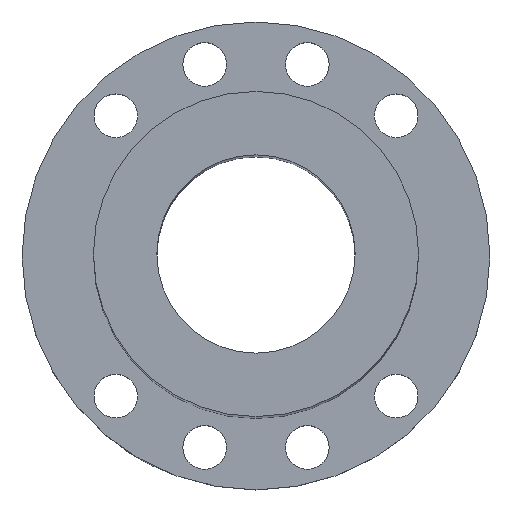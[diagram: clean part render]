
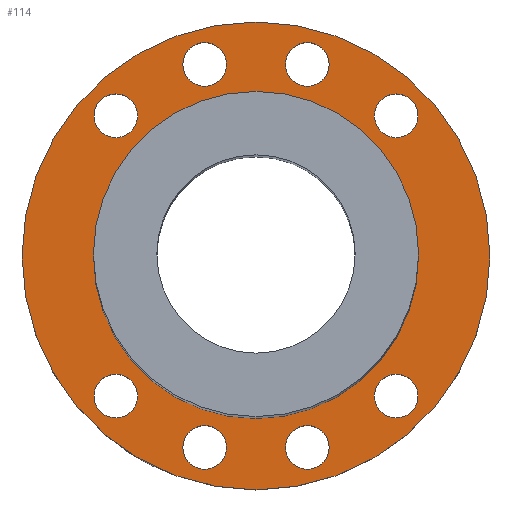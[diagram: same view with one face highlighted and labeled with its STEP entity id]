
A CAD part, top view. The second image highlights one B-rep face of the part: STEP entity #114.
In plain terms, the highlighted planar face has unit normal (0, 0, 1).
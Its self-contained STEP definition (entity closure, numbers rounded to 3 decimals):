
#99=PLANE('',#401);
#114=ADVANCED_FACE('',(#169,#170,#171,#172,#173,#174,#175,#176,#177,#178),
#99,.T.);
#169=FACE_BOUND('',#221,.T.);
#170=FACE_BOUND('',#222,.T.);
#171=FACE_BOUND('',#223,.T.);
#172=FACE_BOUND('',#224,.T.);
#173=FACE_BOUND('',#225,.T.);
#174=FACE_BOUND('',#226,.T.);
#175=FACE_BOUND('',#227,.T.);
#176=FACE_BOUND('',#228,.T.);
#177=FACE_BOUND('',#229,.T.);
#178=FACE_BOUND('',#230,.T.);
#221=EDGE_LOOP('',(#273));
#222=EDGE_LOOP('',(#274));
#223=EDGE_LOOP('',(#275));
#224=EDGE_LOOP('',(#276));
#225=EDGE_LOOP('',(#277));
#226=EDGE_LOOP('',(#278));
#227=EDGE_LOOP('',(#279));
#228=EDGE_LOOP('',(#280));
#229=EDGE_LOOP('',(#281));
#230=EDGE_LOOP('',(#282));
#273=ORIENTED_EDGE('',*,*,#316,.T.);
#274=ORIENTED_EDGE('',*,*,#337,.F.);
#275=ORIENTED_EDGE('',*,*,#336,.T.);
#276=ORIENTED_EDGE('',*,*,#335,.F.);
#277=ORIENTED_EDGE('',*,*,#334,.T.);
#278=ORIENTED_EDGE('',*,*,#333,.F.);
#279=ORIENTED_EDGE('',*,*,#332,.T.);
#280=ORIENTED_EDGE('',*,*,#331,.F.);
#281=ORIENTED_EDGE('',*,*,#318,.T.);
#282=ORIENTED_EDGE('',*,*,#338,.T.);
#290=VERTEX_POINT('',#495);
#292=VERTEX_POINT('',#557);
#305=VERTEX_POINT('',#644);
#306=VERTEX_POINT('',#647);
#307=VERTEX_POINT('',#650);
#308=VERTEX_POINT('',#653);
#309=VERTEX_POINT('',#656);
#310=VERTEX_POINT('',#659);
#311=VERTEX_POINT('',#662);
#312=VERTEX_POINT('',#665);
#316=EDGE_CURVE('',#290,#290,#342,.T.);
#318=EDGE_CURVE('',#292,#292,#343,.T.);
#331=EDGE_CURVE('',#305,#305,#355,.T.);
#332=EDGE_CURVE('',#306,#306,#356,.T.);
#333=EDGE_CURVE('',#307,#307,#357,.T.);
#334=EDGE_CURVE('',#308,#308,#358,.T.);
#335=EDGE_CURVE('',#309,#309,#359,.T.);
#336=EDGE_CURVE('',#310,#310,#360,.T.);
#337=EDGE_CURVE('',#311,#311,#361,.T.);
#338=EDGE_CURVE('',#312,#312,#362,.T.);
#342=CIRCLE('',#367,59.);
#343=CIRCLE('',#369,41.);
#355=CIRCLE('',#385,5.5);
#356=CIRCLE('',#387,5.5);
#357=CIRCLE('',#389,5.5);
#358=CIRCLE('',#391,5.5);
#359=CIRCLE('',#393,5.5);
#360=CIRCLE('',#395,5.5);
#361=CIRCLE('',#397,5.5);
#362=CIRCLE('',#399,5.5);
#367=AXIS2_PLACEMENT_3D('',#494,#411,#412);
#369=AXIS2_PLACEMENT_3D('',#556,#415,#416);
#385=AXIS2_PLACEMENT_3D('',#643,#447,#448);
#387=AXIS2_PLACEMENT_3D('',#646,#451,#452);
#389=AXIS2_PLACEMENT_3D('',#649,#455,#456);
#391=AXIS2_PLACEMENT_3D('',#652,#459,#460);
#393=AXIS2_PLACEMENT_3D('',#655,#463,#464);
#395=AXIS2_PLACEMENT_3D('',#658,#467,#468);
#397=AXIS2_PLACEMENT_3D('',#661,#471,#472);
#399=AXIS2_PLACEMENT_3D('',#664,#475,#476);
#401=AXIS2_PLACEMENT_3D('',#667,#479,#480);
#411=DIRECTION('',(0.,0.,1.));
#412=DIRECTION('',(1.,0.,0.));
#415=DIRECTION('',(0.,0.,-1.));
#416=DIRECTION('',(1.,0.,0.));
#447=DIRECTION('',(0.,0.,1.));
#448=DIRECTION('',(1.,0.,0.));
#451=DIRECTION('',(0.,0.,-1.));
#452=DIRECTION('',(-1.,0.,0.));
#455=DIRECTION('',(0.,0.,1.));
#456=DIRECTION('',(1.,0.,0.));
#459=DIRECTION('',(0.,0.,-1.));
#460=DIRECTION('',(1.,0.,0.));
#463=DIRECTION('',(0.,0.,1.));
#464=DIRECTION('',(-1.,0.,0.));
#467=DIRECTION('',(0.,0.,-1.));
#468=DIRECTION('',(1.,0.,0.));
#471=DIRECTION('',(0.,0.,1.));
#472=DIRECTION('',(-1.,0.,0.));
#475=DIRECTION('',(0.,0.,-1.));
#476=DIRECTION('',(-1.,0.,0.));
#479=DIRECTION('',(0.,0.,1.));
#480=DIRECTION('',(1.,0.,0.));
#494=CARTESIAN_POINT('',(0.,0.,16.));
#495=CARTESIAN_POINT('',(59.,0.,16.));
#556=CARTESIAN_POINT('',(0.,0.,16.));
#557=CARTESIAN_POINT('',(41.,0.,16.));
#643=CARTESIAN_POINT('',(-12.941,48.296,16.));
#644=CARTESIAN_POINT('',(-7.441,48.296,16.));
#646=CARTESIAN_POINT('',(35.355,35.355,16.));
#647=CARTESIAN_POINT('',(29.855,35.355,16.));
#649=CARTESIAN_POINT('',(-35.355,35.355,16.));
#650=CARTESIAN_POINT('',(-29.855,35.355,16.));
#652=CARTESIAN_POINT('',(-35.355,-35.355,16.));
#653=CARTESIAN_POINT('',(-29.855,-35.355,16.));
#655=CARTESIAN_POINT('',(35.355,-35.355,16.));
#656=CARTESIAN_POINT('',(29.855,-35.355,16.));
#658=CARTESIAN_POINT('',(-12.941,-48.296,16.));
#659=CARTESIAN_POINT('',(-7.441,-48.296,16.));
#661=CARTESIAN_POINT('',(12.941,-48.296,16.));
#662=CARTESIAN_POINT('',(7.441,-48.296,16.));
#664=CARTESIAN_POINT('',(12.941,48.296,16.));
#665=CARTESIAN_POINT('',(7.441,48.296,16.));
#667=CARTESIAN_POINT('',(6.47,-24.148,16.));
